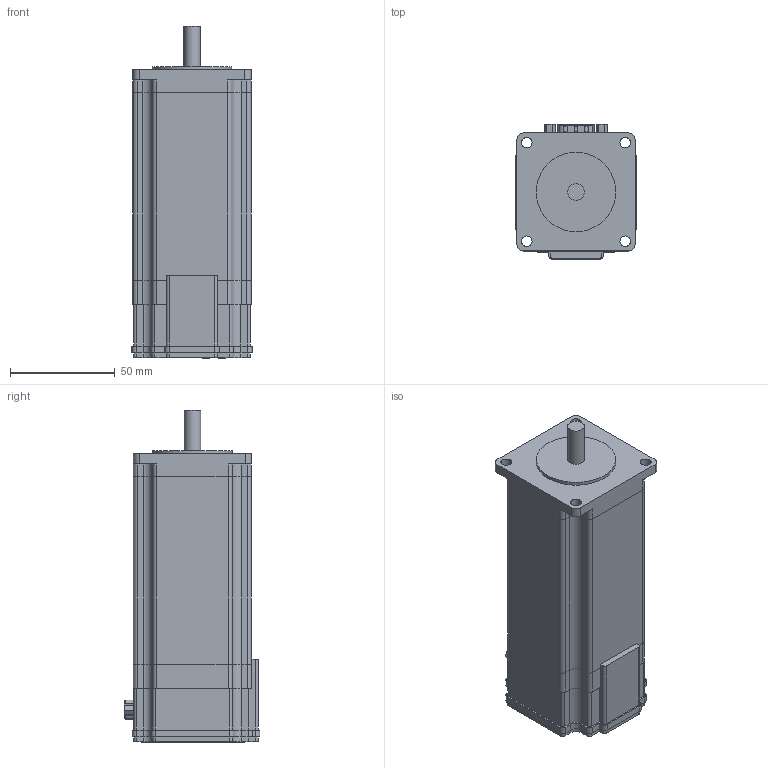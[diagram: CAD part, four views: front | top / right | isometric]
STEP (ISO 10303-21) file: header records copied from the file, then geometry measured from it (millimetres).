
FILE_DESCRIPTION(/* description */ ('Alibre Inc.'),/* implementation_level */ '2;1');
FILE_NAME(/* name */ 'export-8018F5E4-959F-4076-8244-725307E64B5F',/* time_stamp */ '2019-07-12T08:50:43-07:00',/* author */ (''),/* organization */ (''),/* preprocessor_version */ 'ST-DEVELOPER v17',/* originating_system */ 'Alibre',/* authorisation */ '');
FILE_SCHEMA (('AUTOMOTIVE_DESIGN'));
Length unit declared in the file: inch
Bounding box: 57.4 x 64.95 x 158.65 mm (x, y, z)
Volume: 341704.1 mm3; surface area: 69349.7 mm2
Topology: 66 solids, 66 shells, 1866 faces, 4805 edges, 3153 vertices
Faces by surface type: plane 840, bspline 641, cylinder 335, torus 50
Full cylindrical faces by diameter (mm): 2.459 x8, 2.489 x2, 2.87 x2, 3 x4, 3.175 x2, 5.1 x4, 6.35 x2, 8 x1, 38.1 x1
Entity records: 61447 total; most frequent: CARTESIAN_POINT 20946, ORIENTED_EDGE 9568, DIRECTION 5518, EDGE_CURVE 4754, VERTEX_POINT 3134, VECTOR 2729, LINE 2729, EDGE_LOOP 2002
